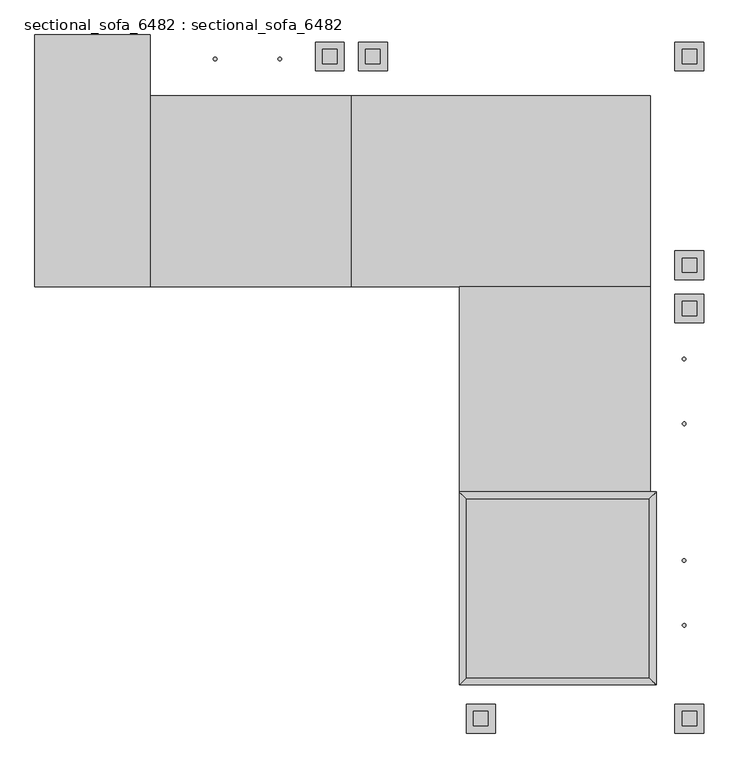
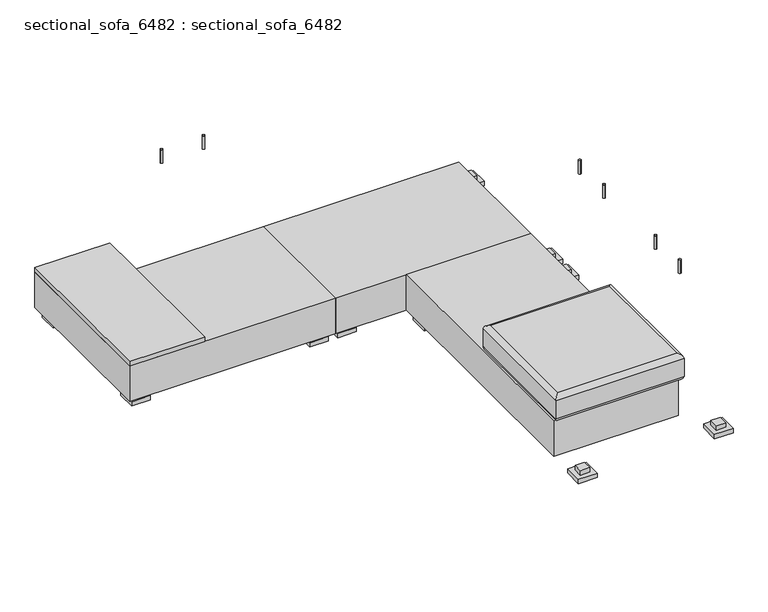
"""IFC4 building model written with IfcOpenShell, lengths in millimetres: furniture geometry, sectional_sofa_6482 : sectional_sofa_6482."""

from ifc_helpers import new_model, si_unit, point, frame, frame_2d, origin, place, context, project, spatial, polyline, circle_curve, ellipse_curve, trimmed, segment, composite_curve, outline, extrude, faceted_brep, source, transform, mapped, element, save
from ifc_brep_helpers import plane_surface, cylinder_surface, advanced_brep


def sectional_sofa_6482_sectional_sofa_6482_b44f1e42(model_context):
    return source(origin(), model_context, "Body", "SolidModel", [
        extrude(outline(composite_curve([segment(trimmed(circle_curve(frame_2d((-482.8859111, 1206.7842798)), 6.35), [point((-489.2359111, 1206.7842798))], [point((-476.5359111, 1206.7842798))], False, "CARTESIAN"), True, "CONTINUOUS"), segment(trimmed(circle_curve(frame_2d((-482.8859111, 1206.7842798)), 6.35), [point((-476.5359111, 1206.7842798))], [point((-489.2359111, 1206.7842798))], False, "CARTESIAN"), True, "CONTINUOUS")], self_intersect=False)), frame((0.0, 0.0, 711.2), z_axis=(0.0, 0.0, 1.0), x_axis=(1.0, 0.0, 0.0)), (0.0, 0.0, 1.0), 76.2),
        extrude(outline(composite_curve([segment(trimmed(circle_curve(frame_2d((-254.2859111, 1206.7842798)), 6.35), [point((-260.6359111, 1206.7842798))], [point((-247.9359111, 1206.7842798))], False, "CARTESIAN"), True, "CONTINUOUS"), segment(trimmed(circle_curve(frame_2d((-254.2859111, 1206.7842798)), 6.35), [point((-247.9359111, 1206.7842798))], [point((-260.6359111, 1206.7842798))], False, "CARTESIAN"), True, "CONTINUOUS")], self_intersect=False)), frame((0.0, 0.0, 711.2), z_axis=(0.0, 0.0, 1.0), x_axis=(1.0, 0.0, 0.0)), (0.0, 0.0, 1.0), 76.2),
        extrude(outline(composite_curve([segment(trimmed(circle_curve(frame_2d((1173.6454882, 148.0415505)), 6.35), [point((1173.6454882, 154.3915505))], [point((1173.6454882, 141.6915505))], False, "CARTESIAN"), True, "CONTINUOUS"), segment(trimmed(circle_curve(frame_2d((1173.6454882, 148.0415505)), 6.35), [point((1173.6454882, 141.6915505))], [point((1173.6454882, 154.3915505))], False, "CARTESIAN"), True, "CONTINUOUS")], self_intersect=False)), frame((0.0, 0.0, 711.2), z_axis=(0.0, 0.0, 1.0), x_axis=(1.0, 0.0, 0.0)), (0.0, 0.0, 1.0), 76.2),
        extrude(outline(composite_curve([segment(trimmed(circle_curve(frame_2d((1173.6454882, -80.5584495)), 6.35), [point((1173.6454882, -74.2084495))], [point((1173.6454882, -86.9084495))], False, "CARTESIAN"), True, "CONTINUOUS"), segment(trimmed(circle_curve(frame_2d((1173.6454882, -80.5584495)), 6.35), [point((1173.6454882, -86.9084495))], [point((1173.6454882, -74.2084495))], False, "CARTESIAN"), True, "CONTINUOUS")], self_intersect=False)), frame((0.0, 0.0, 711.2), z_axis=(0.0, 0.0, 1.0), x_axis=(1.0, 0.0, 0.0)), (0.0, 0.0, 1.0), 76.2),
        extrude(outline(composite_curve([segment(trimmed(circle_curve(frame_2d((1173.6454882, -563.1584495)), 6.35), [point((1173.6454882, -556.8084495))], [point((1173.6454882, -569.5084495))], False, "CARTESIAN"), True, "CONTINUOUS"), segment(trimmed(circle_curve(frame_2d((1173.6454882, -563.1584495)), 6.35), [point((1173.6454882, -569.5084495))], [point((1173.6454882, -556.8084495))], False, "CARTESIAN"), True, "CONTINUOUS")], self_intersect=False)), frame((0.0, 0.0, 711.2), z_axis=(0.0, 0.0, 1.0), x_axis=(1.0, 0.0, 0.0)), (0.0, 0.0, 1.0), 76.2),
        extrude(outline(composite_curve([segment(trimmed(circle_curve(frame_2d((1173.6454882, -791.7584495)), 6.35), [point((1173.6454882, -785.4084495))], [point((1173.6454882, -798.1084495))], False, "CARTESIAN"), True, "CONTINUOUS"), segment(trimmed(circle_curve(frame_2d((1173.6454882, -791.7584495)), 6.35), [point((1173.6454882, -798.1084495))], [point((1173.6454882, -785.4084495))], False, "CARTESIAN"), True, "CONTINUOUS")], self_intersect=False)), frame((0.0, 0.0, 711.2), z_axis=(0.0, 0.0, 1.0), x_axis=(1.0, 0.0, 0.0)), (0.0, 0.0, 1.0), 76.2),
        faceted_brep([(-992.332438, 1164.6931081, 25.4), (-992.332438, 1266.2931081, 25.4), (-1093.932438, 1266.2931081, 25.4), (-1093.932438, 1164.6931081, 25.4), (-1017.732438, 1240.8931081, 25.4), (-1017.732438, 1190.0931081, 25.4), (-1068.532438, 1190.0931081, 25.4), (-1068.532438, 1240.8931081, 25.4), (-992.332438, 1164.6931081, 0.0), (-1093.932438, 1164.6931081, 0.0), (-1093.932438, 1266.2931081, 0.0), (-992.332438, 1266.2931081, 0.0), (-1017.732438, 1190.0931081, 50.8), (-1017.732438, 1240.8931081, 50.8), (-1068.532438, 1240.8931081, 50.8), (-1068.532438, 1190.0931081, 50.8)], [[[0, 1, 2, 3], [4, 5, 6, 7]], [[8, 9, 10, 11]], [[1, 0, 8, 11]], [[2, 1, 11, 10]], [[3, 2, 10, 9]], [[0, 3, 9, 8]], [[12, 13, 14, 15]], [[13, 12, 5, 4]], [[14, 13, 4, 7]], [[15, 14, 7, 6]], [[12, 15, 6, 5]]]),
        faceted_brep([(-992.332438, 428.0931081, 25.4), (-992.332438, 529.6931081, 25.4), (-1093.932438, 529.6931081, 25.4), (-1093.932438, 428.0931081, 25.4), (-1017.732438, 504.2931081, 25.4), (-1017.732438, 453.4931081, 25.4), (-1068.532438, 453.4931081, 25.4), (-1068.532438, 504.2931081, 25.4), (-992.332438, 428.0931081, 0.0), (-1093.932438, 428.0931081, 0.0), (-1093.932438, 529.6931081, 0.0), (-992.332438, 529.6931081, 0.0), (-1017.732438, 453.4931081, 50.8), (-1017.732438, 504.2931081, 50.8), (-1068.532438, 504.2931081, 50.8), (-1068.532438, 453.4931081, 50.8)], [[[0, 1, 2, 3], [4, 5, 6, 7]], [[8, 9, 10, 11]], [[1, 0, 8, 11]], [[2, 1, 11, 10]], [[3, 2, 10, 9]], [[0, 3, 9, 8]], [[12, 13, 14, 15]], [[13, 12, 5, 4]], [[14, 13, 4, 7]], [[15, 14, 7, 6]], [[12, 15, 6, 5]]]),
        faceted_brep([(-27.132438, 1164.6931081, 25.4), (-27.132438, 1266.2931081, 25.4), (-128.732438, 1266.2931081, 25.4), (-128.732438, 1164.6931081, 25.4), (-52.532438, 1240.8931081, 25.4), (-52.532438, 1190.0931081, 25.4), (-103.332438, 1190.0931081, 25.4), (-103.332438, 1240.8931081, 25.4), (-27.132438, 1164.6931081, 0.0), (-128.732438, 1164.6931081, 0.0), (-128.732438, 1266.2931081, 0.0), (-27.132438, 1266.2931081, 0.0), (-52.532438, 1190.0931081, 50.8), (-52.532438, 1240.8931081, 50.8), (-103.332438, 1240.8931081, 50.8), (-103.332438, 1190.0931081, 50.8)], [[[0, 1, 2, 3], [4, 5, 6, 7]], [[8, 9, 10, 11]], [[1, 0, 8, 11]], [[2, 1, 11, 10]], [[3, 2, 10, 9]], [[0, 3, 9, 8]], [[12, 13, 14, 15]], [[13, 12, 5, 4]], [[14, 13, 4, 7]], [[15, 14, 7, 6]], [[12, 15, 6, 5]]]),
        faceted_brep([(23.667562, 1164.6931081, 25.4), (125.267562, 1164.6931081, 25.4), (125.267562, 1266.2931081, 25.4), (23.667562, 1266.2931081, 25.4), (99.867562, 1190.0931081, 25.4), (49.067562, 1190.0931081, 25.4), (49.067562, 1240.8931081, 25.4), (99.867562, 1240.8931081, 25.4), (23.667562, 1164.6931081, 0.0), (23.667562, 1266.2931081, 0.0), (125.267562, 1266.2931081, 0.0), (125.267562, 1164.6931081, 0.0), (49.067562, 1190.0931081, 50.8), (99.867562, 1190.0931081, 50.8), (99.867562, 1240.8931081, 50.8), (49.067562, 1240.8931081, 50.8)], [[[0, 1, 2, 3], [4, 5, 6, 7]], [[8, 9, 10, 11]], [[1, 0, 8, 11]], [[2, 1, 11, 10]], [[3, 2, 10, 9]], [[0, 3, 9, 8]], [[12, 13, 14, 15]], [[13, 12, 5, 4]], [[14, 13, 4, 7]], [[15, 14, 7, 6]], [[12, 15, 6, 5]]]),
        faceted_brep([(-27.132438, 428.0931081, 25.4), (-27.132438, 529.6931081, 25.4), (-128.732438, 529.6931081, 25.4), (-128.732438, 428.0931081, 25.4), (-52.532438, 504.2931081, 25.4), (-52.532438, 453.4931081, 25.4), (-103.332438, 453.4931081, 25.4), (-103.332438, 504.2931081, 25.4), (-27.132438, 428.0931081, 0.0), (-128.732438, 428.0931081, 0.0), (-128.732438, 529.6931081, 0.0), (-27.132438, 529.6931081, 0.0), (-52.532438, 453.4931081, 50.8), (-52.532438, 504.2931081, 50.8), (-103.332438, 504.2931081, 50.8), (-103.332438, 453.4931081, 50.8)], [[[0, 1, 2, 3], [4, 5, 6, 7]], [[8, 9, 10, 11]], [[1, 0, 8, 11]], [[2, 1, 11, 10]], [[3, 2, 10, 9]], [[0, 3, 9, 8]], [[12, 13, 14, 15]], [[13, 12, 5, 4]], [[14, 13, 4, 7]], [[15, 14, 7, 6]], [[12, 15, 6, 5]]]),
        faceted_brep([(23.667562, 428.0931081, 25.4), (125.267562, 428.0931081, 25.4), (125.267562, 529.6931081, 25.4), (23.667562, 529.6931081, 25.4), (99.867562, 453.4931081, 25.4), (49.067562, 453.4931081, 25.4), (49.067562, 504.2931081, 25.4), (99.867562, 504.2931081, 25.4), (23.667562, 428.0931081, 0.0), (23.667562, 529.6931081, 0.0), (125.267562, 529.6931081, 0.0), (125.267562, 428.0931081, 0.0), (49.067562, 453.4931081, 50.8), (99.867562, 453.4931081, 50.8), (99.867562, 504.2931081, 50.8), (49.067562, 504.2931081, 50.8)], [[[0, 1, 2, 3], [4, 5, 6, 7]], [[8, 9, 10, 11]], [[1, 0, 8, 11]], [[2, 1, 11, 10]], [[3, 2, 10, 9]], [[0, 3, 9, 8]], [[12, 13, 14, 15]], [[13, 12, 5, 4]], [[14, 13, 4, 7]], [[15, 14, 7, 6]], [[12, 15, 6, 5]]]),
        faceted_brep([(1242.867562, 1164.6931081, 25.4), (1242.867562, 1266.2931081, 25.4), (1141.267562, 1266.2931081, 25.4), (1141.267562, 1164.6931081, 25.4), (1217.467562, 1240.8931081, 25.4), (1217.467562, 1190.0931081, 25.4), (1166.667562, 1190.0931081, 25.4), (1166.667562, 1240.8931081, 25.4), (1242.867562, 1164.6931081, 0.0), (1141.267562, 1164.6931081, 0.0), (1141.267562, 1266.2931081, 0.0), (1242.867562, 1266.2931081, 0.0), (1217.467562, 1190.0931081, 50.8), (1217.467562, 1240.8931081, 50.8), (1166.667562, 1240.8931081, 50.8), (1166.667562, 1190.0931081, 50.8)], [[[0, 1, 2, 3], [4, 5, 6, 7]], [[8, 9, 10, 11]], [[1, 0, 8, 11]], [[2, 1, 11, 10]], [[3, 2, 10, 9]], [[0, 3, 9, 8]], [[12, 13, 14, 15]], [[13, 12, 5, 4]], [[14, 13, 4, 7]], [[15, 14, 7, 6]], [[12, 15, 6, 5]]]),
        faceted_brep([(506.267562, 377.2931081, 25.4), (404.667562, 377.2931081, 25.4), (404.667562, 275.6931081, 25.4), (506.267562, 275.6931081, 25.4), (430.067562, 351.8931081, 25.4), (480.867562, 351.8931081, 25.4), (480.867562, 301.0931081, 25.4), (430.067562, 301.0931081, 25.4), (506.267562, 377.2931081, 0.0), (506.267562, 275.6931081, 0.0), (404.667562, 275.6931081, 0.0), (404.667562, 377.2931081, 0.0), (480.867562, 351.8931081, 50.8), (430.067562, 351.8931081, 50.8), (430.067562, 301.0931081, 50.8), (480.867562, 301.0931081, 50.8)], [[[0, 1, 2, 3], [4, 5, 6, 7]], [[8, 9, 10, 11]], [[1, 0, 8, 11]], [[2, 1, 11, 10]], [[3, 2, 10, 9]], [[0, 3, 9, 8]], [[12, 13, 14, 15]], [[13, 12, 5, 4]], [[14, 13, 4, 7]], [[15, 14, 7, 6]], [[12, 15, 6, 5]]]),
        faceted_brep([(1242.867562, 428.0931081, 25.4), (1242.867562, 529.6931081, 25.4), (1141.267562, 529.6931081, 25.4), (1141.267562, 428.0931081, 25.4), (1217.467562, 504.2931081, 25.4), (1217.467562, 453.4931081, 25.4), (1166.667562, 453.4931081, 25.4), (1166.667562, 504.2931081, 25.4), (1242.867562, 428.0931081, 0.0), (1141.267562, 428.0931081, 0.0), (1141.267562, 529.6931081, 0.0), (1242.867562, 529.6931081, 0.0), (1217.467562, 453.4931081, 50.8), (1217.467562, 504.2931081, 50.8), (1166.667562, 504.2931081, 50.8), (1166.667562, 453.4931081, 50.8)], [[[0, 1, 2, 3], [4, 5, 6, 7]], [[8, 9, 10, 11]], [[1, 0, 8, 11]], [[2, 1, 11, 10]], [[3, 2, 10, 9]], [[0, 3, 9, 8]], [[12, 13, 14, 15]], [[13, 12, 5, 4]], [[14, 13, 4, 7]], [[15, 14, 7, 6]], [[12, 15, 6, 5]]]),
        faceted_brep([(1242.867562, 377.2931081, 25.4), (1141.267562, 377.2931081, 25.4), (1141.267562, 275.6931081, 25.4), (1242.867562, 275.6931081, 25.4), (1166.667562, 351.8931081, 25.4), (1217.467562, 351.8931081, 25.4), (1217.467562, 301.0931081, 25.4), (1166.667562, 301.0931081, 25.4), (1242.867562, 377.2931081, 0.0), (1242.867562, 275.6931081, 0.0), (1141.267562, 275.6931081, 0.0), (1141.267562, 377.2931081, 0.0), (1217.467562, 351.8931081, 50.8), (1166.667562, 351.8931081, 50.8), (1166.667562, 301.0931081, 50.8), (1217.467562, 301.0931081, 50.8)], [[[0, 1, 2, 3], [4, 5, 6, 7]], [[8, 9, 10, 11]], [[1, 0, 8, 11]], [[2, 1, 11, 10]], [[3, 2, 10, 9]], [[0, 3, 9, 8]], [[12, 13, 14, 15]], [[13, 12, 5, 4]], [[14, 13, 4, 7]], [[15, 14, 7, 6]], [[12, 15, 6, 5]]]),
        faceted_brep([(506.267562, -1172.1068919, 25.4), (506.267562, -1070.5068919, 25.4), (404.667562, -1070.5068919, 25.4), (404.667562, -1172.1068919, 25.4), (480.867562, -1095.9068919, 25.4), (480.867562, -1146.7068919, 25.4), (430.067562, -1146.7068919, 25.4), (430.067562, -1095.9068919, 25.4), (506.267562, -1172.1068919, 0.0), (404.667562, -1172.1068919, 0.0), (404.667562, -1070.5068919, 0.0), (506.267562, -1070.5068919, 0.0), (480.867562, -1146.7068919, 50.8), (480.867562, -1095.9068919, 50.8), (430.067562, -1095.9068919, 50.8), (430.067562, -1146.7068919, 50.8)], [[[0, 1, 2, 3], [4, 5, 6, 7]], [[8, 9, 10, 11]], [[1, 0, 8, 11]], [[2, 1, 11, 10]], [[3, 2, 10, 9]], [[0, 3, 9, 8]], [[12, 13, 14, 15]], [[13, 12, 5, 4]], [[14, 13, 4, 7]], [[15, 14, 7, 6]], [[12, 15, 6, 5]]]),
        faceted_brep([(1242.867562, -1172.1068919, 25.4), (1242.867562, -1070.5068919, 25.4), (1141.267562, -1070.5068919, 25.4), (1141.267562, -1172.1068919, 25.4), (1217.467562, -1095.9068919, 25.4), (1217.467562, -1146.7068919, 25.4), (1166.667562, -1146.7068919, 25.4), (1166.667562, -1095.9068919, 25.4), (1242.867562, -1172.1068919, 0.0), (1141.267562, -1172.1068919, 0.0), (1141.267562, -1070.5068919, 0.0), (1242.867562, -1070.5068919, 0.0), (1217.467562, -1146.7068919, 50.8), (1217.467562, -1095.9068919, 50.8), (1166.667562, -1095.9068919, 50.8), (1166.667562, -1146.7068919, 50.8)], [[[0, 1, 2, 3], [4, 5, 6, 7]], [[8, 9, 10, 11]], [[1, 0, 8, 11]], [[2, 1, 11, 10]], [[3, 2, 10, 9]], [[0, 3, 9, 8]], [[12, 13, 14, 15]], [[13, 12, 5, 4]], [[14, 13, 4, 7]], [[15, 14, 7, 6]], [[12, 15, 6, 5]]]),
        advanced_brep(
        [(404.667562, -346.6068919, 406.4), (404.667562, -977.0009907, 406.4), (1049.4594497, -977.0009907, 406.4), (1049.4594497, -346.6068919, 406.4), (404.667562, -977.0009907, 254.0), (404.667562, -346.6068919, 254.0), (1049.4594497, -346.6068919, 254.0), (1049.4594497, -977.0009907, 254.0), (1074.8594497, -321.2068919, 279.4), (1074.8594497, -321.2068919, 381.0), (1074.8594497, -1002.4009907, 381.0), (1074.8594497, -1002.4009907, 279.4), (379.267562, -321.2068919, 279.4), (379.267562, -321.2068919, 381.0), (379.267562, -1002.4009907, 279.4), (379.267562, -1002.4009907, 381.0)],
        [
            (0, 1),
            (1, 2),
            (2, 3),
            (3, 0),
            (4, 5),
            (5, 6),
            (6, 7),
            (7, 4),
            (8, 9),
            (9, 10),
            (10, 11),
            (11, 8),
            (8, 12),
            (12, 13),
            (13, 9),
            (12, 14),
            (14, 15),
            (15, 13),
            (10, 15),
            (14, 11),
            (15, 1, ellipse_curve(frame((404.667562, -977.0009907, 381.0), z_axis=(-0.7071067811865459, 0.707106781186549, 0.0), x_axis=(-0.7071067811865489, -0.7071067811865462, 0.0)), 35.9210245, 25.4)),
            (0, 13, ellipse_curve(frame((404.667562, -346.6068919, 381.0), z_axis=(-0.7071067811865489, -0.707106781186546, 0.0), x_axis=(0.707106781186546, -0.7071067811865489, 0.0)), 35.9210245, 25.4)),
            (4, 14, ellipse_curve(frame((404.667562, -977.0009907, 279.4), z_axis=(-0.7071067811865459, 0.707106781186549, 0.0), x_axis=(-0.7071067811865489, -0.7071067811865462, 0.0)), 35.9210245, 25.4)),
            (12, 5, ellipse_curve(frame((404.667562, -346.6068919, 279.4), z_axis=(-0.7071067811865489, -0.707106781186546, 0.0), x_axis=(0.707106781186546, -0.7071067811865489, 0.0)), 35.9210245, 25.4)),
            (10, 2, ellipse_curve(frame((1049.4594497, -977.0009907, 381.0), z_axis=(-0.707106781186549, -0.707106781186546, 0.0), x_axis=(0.7071067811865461, -0.7071067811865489, 0.0)), 35.9210245, 25.4)),
            (7, 11, ellipse_curve(frame((1049.4594497, -977.0009907, 279.4), z_axis=(-0.707106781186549, -0.707106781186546, 0.0), x_axis=(0.7071067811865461, -0.7071067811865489, 0.0)), 35.9210245, 25.4)),
            (9, 3, ellipse_curve(frame((1049.4594497, -346.6068919, 381.0), z_axis=(0.7071067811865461, -0.7071067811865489, 0.0), x_axis=(0.7071067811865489, 0.7071067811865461, 0.0)), 35.9210245, 25.4)),
            (6, 8, ellipse_curve(frame((1049.4594497, -346.6068919, 279.4), z_axis=(0.7071067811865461, -0.7071067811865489, 0.0), x_axis=(0.7071067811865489, 0.7071067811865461, 0.0)), 35.9210245, 25.4)),
        ],
        [
            plane_surface(frame((1074.8594497, -333.9068919, 406.4), z_axis=(0.0, 0.0, 1.0), x_axis=(0.0, 1.0, 0.0))),
            plane_surface(frame((1074.8594497, -333.9068919, 254.0), z_axis=(0.0, 0.0, -1.0), x_axis=(0.0, -1.0, 0.0))),
            plane_surface(frame((1074.8594497, -1002.4009907, 406.4), z_axis=(1.0, 0.0, 0.0), x_axis=(0.0, 0.0, -1.0))),
            plane_surface(frame((1074.8594497, -321.2068919, 406.4), z_axis=(0.0, 1.0, 0.0), x_axis=(0.0, 0.0, -1.0))),
            plane_surface(frame((379.267562, -321.2068919, 406.4), z_axis=(-1.0, 0.0, 0.0), x_axis=(0.0, 0.0, -1.0))),
            plane_surface(frame((379.267562, -1002.4009907, 406.4), z_axis=(0.0, -1.0, 0.0), x_axis=(0.0, 0.0, -1.0))),
            cylinder_surface(frame((404.667562, -321.2068919, 381.0), z_axis=(0.0, -1.0, 0.0), x_axis=(1.0, 0.0, 0.0)), 25.4),
            cylinder_surface(frame((404.667562, -321.2068919, 279.4), z_axis=(0.0, -1.0, 0.0), x_axis=(1.0, 0.0, 0.0)), 25.4),
            cylinder_surface(frame((379.267562, -977.0009907, 381.0), z_axis=(1.0, 0.0, 0.0), x_axis=(0.0, 1.0, 0.0)), 25.4),
            cylinder_surface(frame((379.267562, -977.0009907, 279.4), z_axis=(1.0, 0.0, 0.0), x_axis=(0.0, 1.0, 0.0)), 25.4),
            cylinder_surface(frame((1049.4594497, -1002.4009907, 381.0), z_axis=(0.0, 1.0, 0.0), x_axis=(-1.0, 0.0, 0.0)), 25.4),
            cylinder_surface(frame((1049.4594497, -1002.4009907, 279.4), z_axis=(0.0, 1.0, 0.0), x_axis=(-1.0, 0.0, 0.0)), 25.4),
            cylinder_surface(frame((1074.8594497, -346.6068919, 381.0), z_axis=(-1.0, 0.0, 0.0), x_axis=(0.0, -1.0, 0.0)), 25.4),
            cylinder_surface(frame((1074.8594497, -346.6068919, 279.4), z_axis=(-1.0, 0.0, 0.0), x_axis=(0.0, -1.0, 0.0)), 25.4),
        ],
        [
            (0, [[1, 2, 3, 4]]),
            (1, [[5, 6, 7, 8]]),
            (2, [[9, 10, 11, 12]]),
            (3, [[-9, 13, 14, 15]]),
            (4, [[-14, 16, 17, 18]]),
            (5, [[-11, 19, -17, 20]]),
            (6, [[21, -1, 22, -18]]),
            (7, [[23, -16, 24, -5]]),
            (8, [[-21, -19, 25, -2]]),
            (9, [[-23, -8, 26, -20]]),
            (10, [[-25, -10, 27, -3]]),
            (11, [[-26, -7, 28, -12]]),
            (12, [[-22, -4, -27, -15]]),
            (13, [[-24, -13, -28, -6]]),
        ],
    ),
        faceted_brep([(-712.932438, 1291.6931081, 279.4), (-1119.332438, 1291.6931081, 279.4), (-1119.332438, 402.6931081, 279.4), (-712.932438, 402.6931081, 279.4), (-712.932438, 1098.2849958, 279.4), (-712.932438, 402.6931081, 254.0), (-1119.332438, 402.6931081, 254.0), (-1119.332438, 1291.6931081, 254.0), (-712.932438, 1291.6931081, 254.0), (-712.932438, 1098.2849958, 254.0)], [[[0, 1, 2, 3, 4]], [[5, 6, 7, 8, 9]], [[1, 0, 8, 7]], [[2, 1, 7, 6]], [[3, 2, 6, 5]], [[8, 0, 4, 3, 5, 9]]]),
        extrude(outline(polyline([(1054.4328112, -983.672141), (379.267562, -983.672141), (379.267562, 402.6931081), (1054.4328112, 402.6931081), (1054.4328112, -983.672141)])), frame((0.0, 0.0, 50.8), z_axis=(0.0, 0.0, 1.0), x_axis=(1.0, 0.0, 0.0)), (0.0, 0.0, 1.0), 203.2),
        extrude(outline(polyline([(1054.4328112, 1077.8583572), (1054.4328112, 402.6931081), (-1.732438, 402.6931081), (-1.732438, 1077.8583572), (1054.4328112, 1077.8583572)])), frame((0.0, 0.0, 50.8), z_axis=(0.0, 0.0, 1.0), x_axis=(1.0, 0.0, 0.0)), (0.0, 0.0, 1.0), 203.2),
        extrude(outline(polyline([(-712.932438, 1291.6931081), (-712.932438, 1077.8583572), (-1.732438, 1077.8583572), (-1.732438, 402.6931081), (-1119.332438, 402.6931081), (-1119.332438, 1291.6931081), (-712.932438, 1291.6931081)])), frame((0.0, 0.0, 50.8), z_axis=(0.0, 0.0, 1.0), x_axis=(1.0, 0.0, 0.0)), (0.0, 0.0, 1.0), 203.2),
    ])


if __name__ == "__main__":
    model = new_model("IFC4")
    model_context = context("Model", 3, world=origin())
    ifc_project = project(units=[si_unit("LENGTHUNIT", "METRE", prefix="MILLI")], contexts=[model_context])
    site = spatial("IfcSite", under=ifc_project)
    building = spatial("IfcBuilding", under=site)
    placement = place(None, origin())
    sectional_sofa_6482_sectional_sofa_6482_shape = sectional_sofa_6482_sectional_sofa_6482_b44f1e42(model_context)
    element("IfcFurniture", 1, ObjectType="sectional_sofa_6482 : sectional_sofa_6482", at=placement, inside=building, context=model_context, shape_type="MappedRepresentation", body=[
        mapped(sectional_sofa_6482_sectional_sofa_6482_shape, transform((0.0, 0.0, 0.0), x_axis=(1.0, 0.0, 0.0), y_axis=(0.0, 1.0, 0.0), z_axis=(0.0, 0.0, 1.0))),
    ])
    save(model, "model.ifc")
